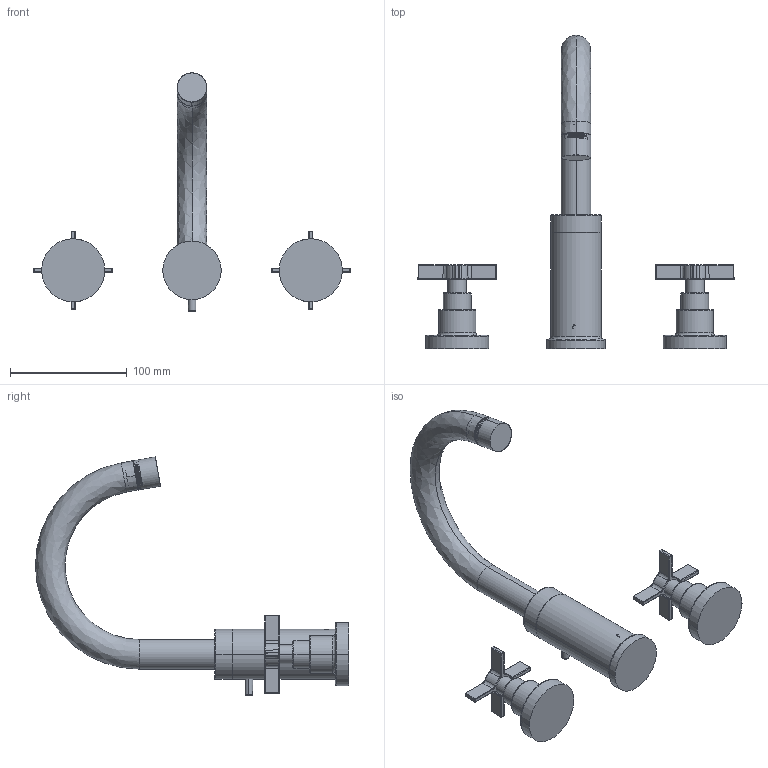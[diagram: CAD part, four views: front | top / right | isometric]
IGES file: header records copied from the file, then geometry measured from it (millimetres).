
Start section:  PTC IGES file: sku_ts4714.igs
Global section: file name: sku_ts4714.igs; native system: Pro/ENGINEER by Parametric Technology Corporation; preprocessor: 2006460; author: 9dutterb; organization: Unknown; date: 20071109.155834; units: inch
Bounding box: 270.3 x 267.75 x 203.76 mm (x, y, z)
Surface area: 82311 mm2 (no closed solid volume)
Topology: 0 solids, 0 shells, 280 faces, 1174 edges, 1174 vertices
Faces by surface type: revolution 183, bspline 96, extrusion 1
